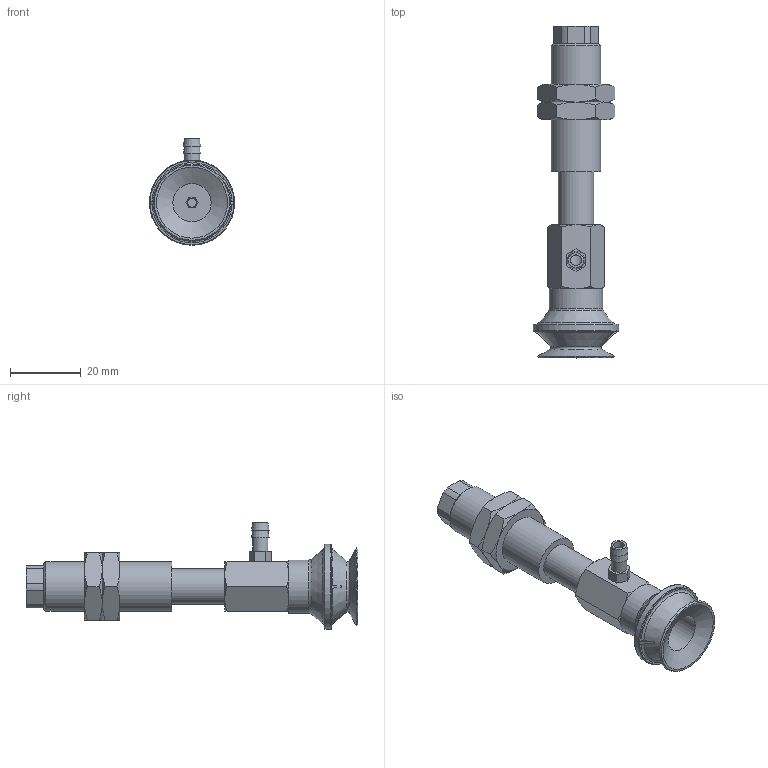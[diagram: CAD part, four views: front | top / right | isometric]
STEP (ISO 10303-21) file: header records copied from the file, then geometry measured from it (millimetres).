
FILE_DESCRIPTION(('STEP AP203'),'1');
FILE_NAME('-T.stp','2025-04-02T00:33:18',(' '),(' '),'Spatial InterOp 3D',' ',' ');
FILE_SCHEMA(('CONFIG_CONTROL_DESIGN'));
Length unit declared in the file: millimetre
Products named in the file (8): BNABPBYS-20-15-※-T; Adapter20-T-NAPB; CONNECTOR-20-15-PB; Nut-20-S-PB; NAPBTS-20-15--F; NAPBTS-20-15--M; BPBG-20-※; T
Assembly tree (8 placements, depth 2):
  BNABPBYS-20-15-※-T
    Adapter20-T-NAPB
    CONNECTOR-20-15-PB
    Nut-20-S-PB  x2
    NAPBTS-20-15--F
    NAPBTS-20-15--M
    BPBG-20-※
    T
Bounding box: 24 x 93.5 x 30 mm (x, y, z)
Volume: 15246.7 mm3; surface area: 11925.8 mm2
Topology: 8 solids, 8 shells, 173 faces, 375 edges, 231 vertices
Faces by surface type: plane 79, cone 59, cylinder 26, torus 9
Full cylindrical faces by diameter (mm): 2.5 x1, 3 x2, 4.134 x3, 4.3 x1, 4.6 x1, 5 x3, 10 x2, 10.8 x1, 11 x1, 12.917 x2, 14 x1, 15 x1, 24 x1
Entity records: 4466 total; most frequent: CARTESIAN_POINT 993, DIRECTION 658, ORIENTED_EDGE 548, AXIS2_PLACEMENT_3D 277, EDGE_CURVE 274, EDGE_LOOP 220, VERTEX_POINT 194, FACE_OUTER_BOUND 176
